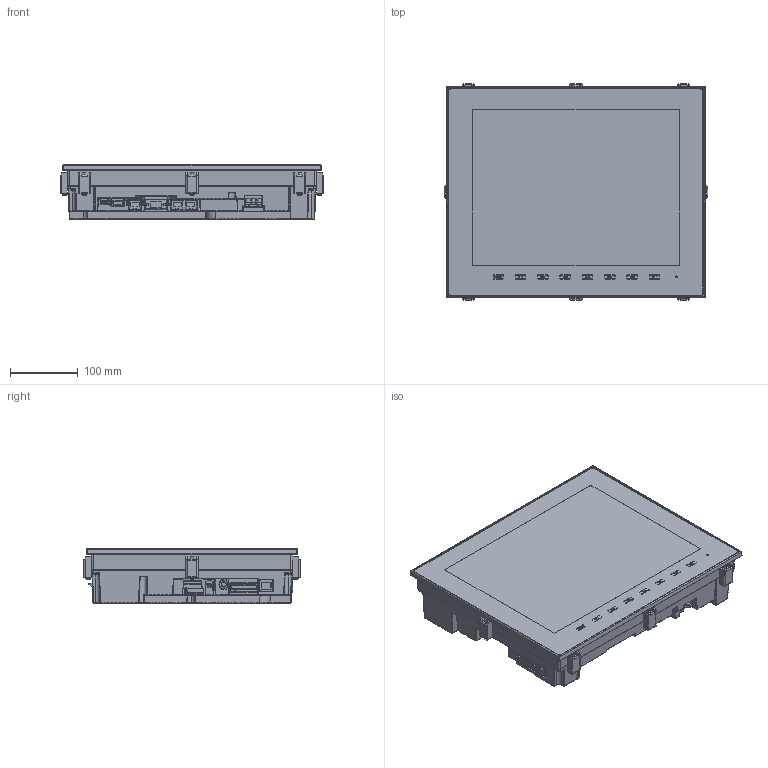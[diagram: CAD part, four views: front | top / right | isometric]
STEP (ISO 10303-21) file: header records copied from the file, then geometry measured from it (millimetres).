
FILE_DESCRIPTION((''),'2;1');
FILE_NAME('V915_3D-DATA','2015-03-30T',('takahashi'),('Hakko Electronics Co.,Ltd.'),'PRO/ENGINEER BY PARAMETRIC TECHNOLOGY CORPORATION, 2011330','PRO/ENGINEER BY PARAMETRIC TECHNOLOGY CORPORATION, 2011330','');
FILE_SCHEMA(('CONFIG_CONTROL_DESIGN'));
Products named in the file (1): V915_3D-DATA
Bounding box: 389.6 x 319.6 x 80.8 mm (x, y, z)
Volume: 7889998.8 mm3; surface area: 396133.8 mm2
Topology: 1 solids, 1 shells, 4290 faces, 11484 edges, 7394 vertices
Faces by surface type: plane 3125, cylinder 716, bspline 180, cone 93, torus 86, sphere 73, extrusion 17
Entity records: 154730 total; most frequent: CARTESIAN_POINT 49020, ORIENTED_EDGE 22944, DIRECTION 20055, EDGE_CURVE 11472, VECTOR 9451, LINE 9434, VERTEX_POINT 7390, AXIS2_PLACEMENT_3D 5302
